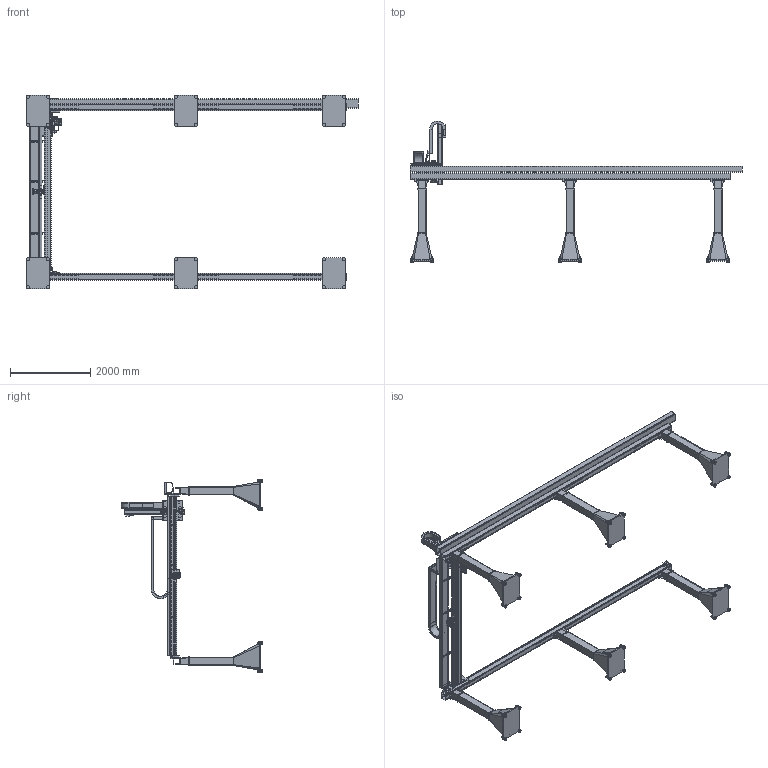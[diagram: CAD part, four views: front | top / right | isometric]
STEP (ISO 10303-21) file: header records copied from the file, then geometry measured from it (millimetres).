
FILE_DESCRIPTION (( 'STEP AP203' ), '1' );
FILE_NAME ('10-00000616-001.STEP', '2020-03-10T10:24:12', ( '' ), ( '' ), 'SwSTEP 2.0', 'SolidWorks 2017', '' );
FILE_SCHEMA (( 'CONFIG_CONTROL_DESIGN' ));
Length unit declared in the file: millimetre
Products named in the file (26): 10-00000616-020_Aus; 10-00000611-006; 10-00000616-013; 10-00008802-618_10416234__asm; 10-00000616-012_.; 10-00000616-005_.; 10-00000611-020_.; 10-00000616-014_NEUER ARTIKEL; 10-00000611-010_beide; 10-00000616-017_NEUER ARTIKEL; 10-00008802-607_10416213__red; 10-00000616-002_NEUER ARTIKEL; 10-00000611-012; 10-00000616-015; 10-00000616-008_.; 10-00000611-009; 10-00000616-016; 10-00000616-009_NEUER ARTIKEL; 10-00000616-018_Ein; 10-00000616-007_alternativ; 10-00000616-010_NEUER ARTIKEL; 10-00000616-004_.; 10-00000616-001; 10-00000611-016; 10-00000616-011_NEUER ARTIKEL; 10-00000616-004_rechts
Assembly tree (36 placements, depth 3):
  10-00000616-001
    10-00000616-002_NEUER ARTIKEL
      10-00000616-004_.
      10-00000616-004_rechts
      10-00000616-013  x6
      10-00000616-005_.
      10-00000611-010_beide  x4
    10-00000616-007_alternativ
      10-00000616-008_.
      10-00000616-009_NEUER ARTIKEL
      10-00000616-010_NEUER ARTIKEL
      10-00000616-011_NEUER ARTIKEL
      10-00000611-006  x3
      10-00000616-012_.
      10-00000616-014_NEUER ARTIKEL
      10-00008802-607_10416213__red
      10-00000616-015
      10-00000616-016
    10-00000616-017_NEUER ARTIKEL
      10-00000611-016
      10-00000616-020_Aus
      10-00008802-618_10416234__asm  x2
      10-00000611-020_.
    10-00000616-018_Ein
      10-00000611-012
      10-00000611-009
Bounding box: 8300 x 3535.8 x 4842.5 mm (x, y, z)
Volume: 1033764765.9 mm3; surface area: 72996990.4 mm2
Topology: 102 solids, 137 shells, 5051 faces, 12932 edges, 8279 vertices
Faces by surface type: plane 2523, cylinder 2127, cone 389, torus 12
Entity records: 103604 total; most frequent: CARTESIAN_POINT 20016, DIRECTION 17039, ORIENTED_EDGE 16382, EDGE_CURVE 8205, AXIS2_PLACEMENT_3D 6185, VERTEX_POINT 5320, LINE 4669, VECTOR 4669
